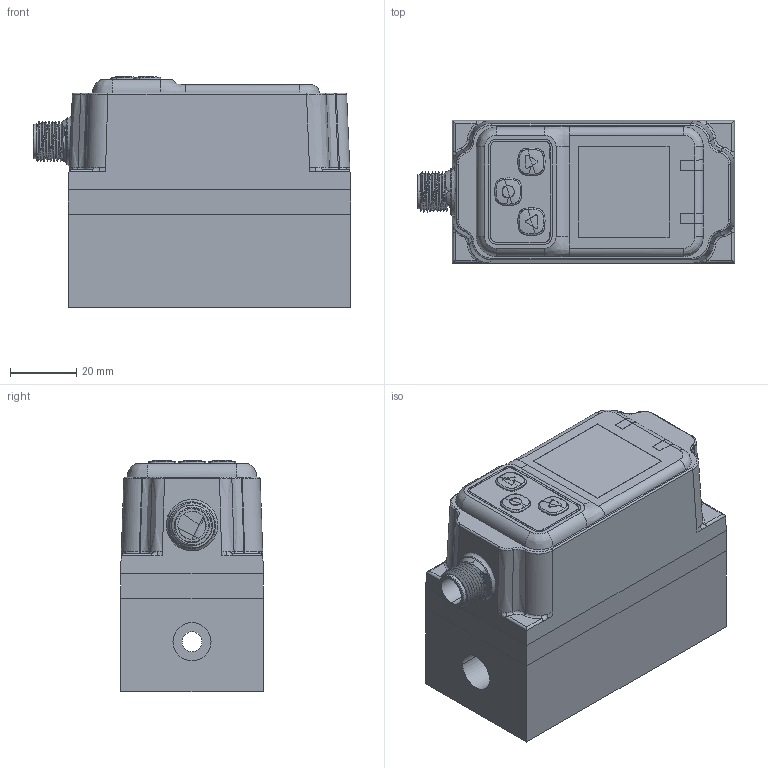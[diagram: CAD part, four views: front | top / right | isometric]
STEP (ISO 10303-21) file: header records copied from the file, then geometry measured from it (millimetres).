
FILE_DESCRIPTION (( 'STEP AP214' ), '1' );
FILE_NAME ('BFW2F06.STEP', '2026-01-23T06:28:23', ( '' ), ( '' ), 'SwSTEP 2.0', 'SolidWorks 2025', '' );
FILE_SCHEMA (( 'AUTOMOTIVE_DESIGN' ));
Length unit declared in the file: millimetre
Products named in the file (5): BFW2F06; 涡轮装配体2025.12最终板.STEP; 涡街流量计上盖外形.STEP; BFW-DN6; 板子.STEP
Assembly tree (4 placements, depth 3):
  BFW2F06
    涡轮装配体2025.12最终板.STEP
      涡街流量计上盖外形.STEP
    BFW-DN6
    板子.STEP
Bounding box: 95.53 x 43 x 69.52 mm (x, y, z)
Volume: 233313.2 mm3; surface area: 45400.2 mm2
Topology: 10 solids, 10 shells, 464 faces, 1199 edges, 772 vertices
Faces by surface type: bspline 226, plane 133, cylinder 95, cone 8, torus 2
Entity records: 50748 total; most frequent: CARTESIAN_POINT 42131, ORIENTED_EDGE 2372, EDGE_CURVE 1186, B_SPLINE_CURVE_WITH_KNOTS 1018, VERTEX_POINT 772, DIRECTION 657, EDGE_LOOP 496, FACE_OUTER_BOUND 464
